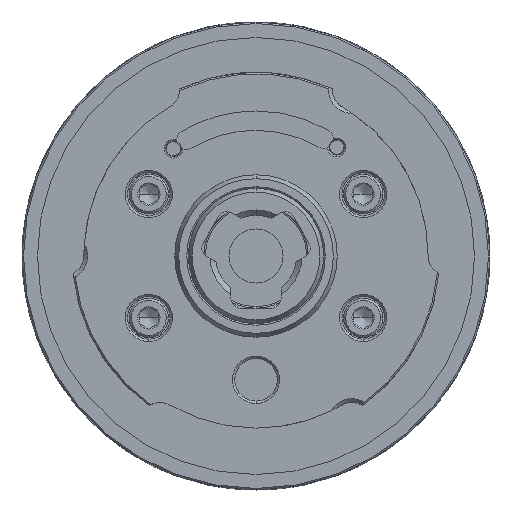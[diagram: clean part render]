
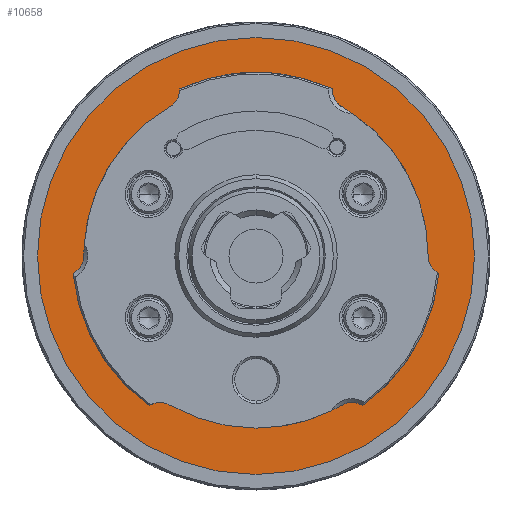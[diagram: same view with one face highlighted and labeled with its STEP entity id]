
A CAD part, front view. The second image highlights one B-rep face of the part: STEP entity #10658.
In plain terms, the highlighted planar face has unit normal (0, -1, 0).
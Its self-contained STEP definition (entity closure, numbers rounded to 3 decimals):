
#63 = DIRECTION ( 'NONE',  ( 0., 1., 0. ) ) ;
#2528 = CIRCLE ( 'NONE', #49830, 44.5 ) ;
#3676 = PLANE ( 'NONE',  #18102 ) ;
#4438 = DIRECTION ( 'NONE',  ( 0., 0., -1. ) ) ;
#4838 = EDGE_CURVE ( 'NONE', #47603, #19187, #50218, .T. ) ;
#5546 = DIRECTION ( 'NONE',  ( 0., 0., -1. ) ) ;
#9206 = EDGE_LOOP ( 'NONE', ( #20511, #30426 ) ) ;
#10658 = ADVANCED_FACE ( 'NONE', ( #15311, #11516 ), #3676, .T. ) ;
#10695 = DIRECTION ( 'NONE',  ( 0., 0., -1. ) ) ;
#11516 = FACE_OUTER_BOUND ( 'NONE', #9206, .T. ) ;
#11794 = DIRECTION ( 'NONE',  ( 0., -1., 0. ) ) ;
#12740 = EDGE_CURVE ( 'NONE', #45404, #40339, #2528, .T. ) ;
#13643 = DIRECTION ( 'NONE',  ( 0., 1., 0. ) ) ;
#15311 = FACE_BOUND ( 'NONE', #34814, .T. ) ;
#18102 = AXIS2_PLACEMENT_3D ( 'NONE', #20168, #11794, #23671 ) ;
#19187 = VERTEX_POINT ( 'NONE', #52321 ) ;
#19897 = DIRECTION ( 'NONE',  ( 0., 1., 0. ) ) ;
#20168 = CARTESIAN_POINT ( 'NONE',  ( 0., -26.5, -56.5 ) ) ;
#20511 = ORIENTED_EDGE ( 'NONE', *, *, #4838, .F. ) ;
#22093 = EDGE_CURVE ( 'NONE', #40339, #45404, #34970, .T. ) ;
#23671 = DIRECTION ( 'NONE',  ( 0., 0., 1. ) ) ;
#24926 = DIRECTION ( 'NONE',  ( 0., 1., 0. ) ) ;
#28089 = CARTESIAN_POINT ( 'NONE',  ( 0., -26.5, -44.5 ) ) ;
#28954 = CARTESIAN_POINT ( 'NONE',  ( 0., -26.5, 0. ) ) ;
#30426 = ORIENTED_EDGE ( 'NONE', *, *, #51494, .F. ) ;
#32045 = ORIENTED_EDGE ( 'NONE', *, *, #22093, .T. ) ;
#33294 = ORIENTED_EDGE ( 'NONE', *, *, #12740, .T. ) ;
#34117 = AXIS2_PLACEMENT_3D ( 'NONE', #28954, #24926, #4438 ) ;
#34434 = CARTESIAN_POINT ( 'NONE',  ( 0., -26.5, -56.5 ) ) ;
#34801 = AXIS2_PLACEMENT_3D ( 'NONE', #46188, #13643, #5546 ) ;
#34814 = EDGE_LOOP ( 'NONE', ( #32045, #33294 ) ) ;
#34970 = CIRCLE ( 'NONE', #34117, 44.5 ) ;
#39328 = CARTESIAN_POINT ( 'NONE',  ( 0., -26.5, 44.5 ) ) ;
#40045 = CARTESIAN_POINT ( 'NONE',  ( 0., -26.5, 0. ) ) ;
#40339 = VERTEX_POINT ( 'NONE', #28089 ) ;
#40736 = DIRECTION ( 'NONE',  ( 0., 0., -1. ) ) ;
#41259 = CARTESIAN_POINT ( 'NONE',  ( 0., -26.5, 0. ) ) ;
#45404 = VERTEX_POINT ( 'NONE', #39328 ) ;
#46188 = CARTESIAN_POINT ( 'NONE',  ( 0., -26.5, 0. ) ) ;
#47603 = VERTEX_POINT ( 'NONE', #34434 ) ;
#49830 = AXIS2_PLACEMENT_3D ( 'NONE', #40045, #19897, #10695 ) ;
#50218 = CIRCLE ( 'NONE', #34801, 56.5 ) ;
#50434 = CIRCLE ( 'NONE', #53016, 56.5 ) ;
#51494 = EDGE_CURVE ( 'NONE', #19187, #47603, #50434, .T. ) ;
#52321 = CARTESIAN_POINT ( 'NONE',  ( 0., -26.5, 56.5 ) ) ;
#53016 = AXIS2_PLACEMENT_3D ( 'NONE', #41259, #63, #40736 ) ;
